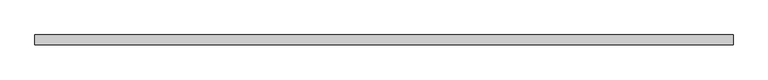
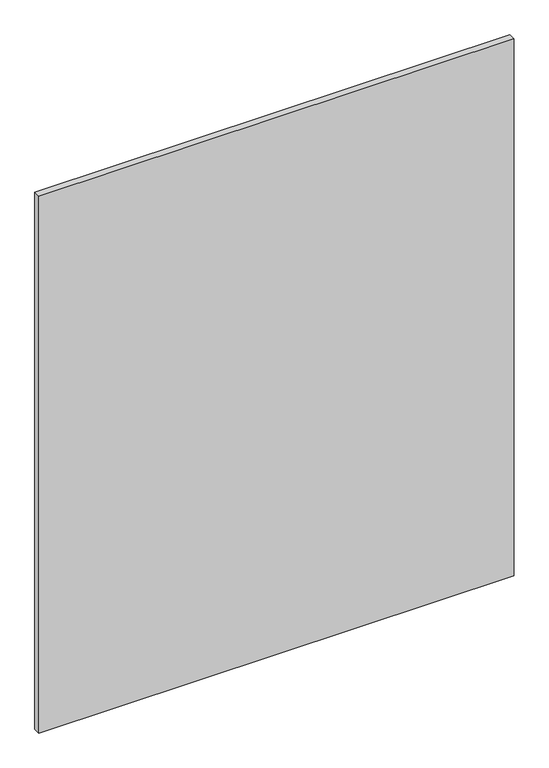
"""IFC4 building model written with IfcOpenShell, lengths in millimetres: plate geometry, 系统嵌板 : 玻璃."""

from ifc_helpers import new_model, si_unit, origin, origin_with_axes, place, context, project, spatial, polyline, outline, extrude, source, transform, mapped, element, save


def plate_04283251(model_context):
    return source(origin(), model_context, "Body", "SweptSolid", [
        extrude(outline(polyline([(890.0, -12.5), (-890.0, -12.5), (-890.0, 12.5), (890.0, 12.5), (890.0, -12.5)])), origin_with_axes(), (0.0, 0.0, 1.0), 2125.0),
    ])


if __name__ == "__main__":
    model = new_model("IFC4")
    model_context = context("Model", 3, world=origin())
    ifc_project = project(units=[si_unit("LENGTHUNIT", "METRE", prefix="MILLI")], contexts=[model_context])
    site = spatial("IfcSite", under=ifc_project)
    building = spatial("IfcBuilding", under=site)
    placement = place(None, origin())
    plate_shape = plate_04283251(model_context)
    element("IfcPlate", 1, ObjectType="系统嵌板 : 玻璃", at=placement, inside=building, context=model_context, shape_type="MappedRepresentation", body=[
        mapped(plate_shape, transform((0.0, 0.0, 0.0), x_axis=(1.0, 0.0, 0.0), y_axis=(0.0, 1.0, 0.0), z_axis=(0.0, 0.0, 1.0))),
    ])
    save(model, "model.ifc")
